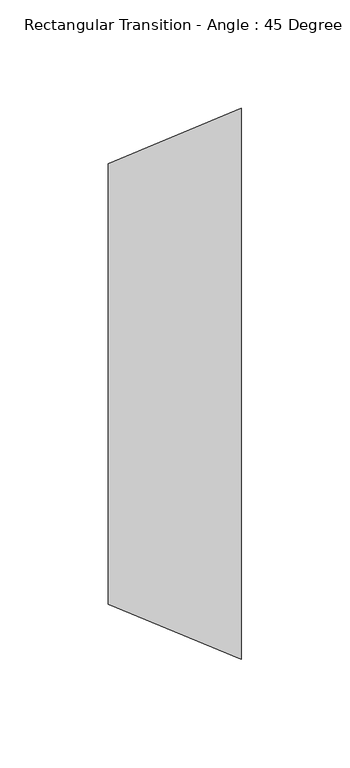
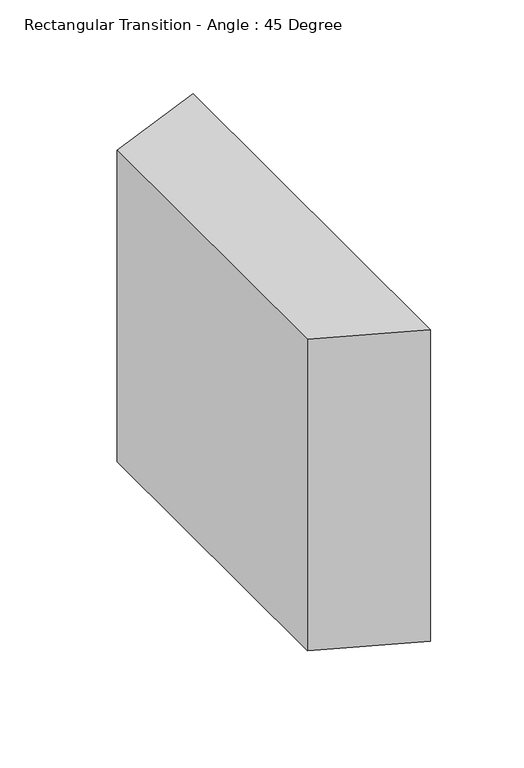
"""IFC4 building model written with IfcOpenShell, lengths in millimetres: duct fitting geometry, Rectangular Transition - Angle : 45 Degree."""

from ifc_helpers import new_model, si_unit, frame, origin, place, context, project, spatial, polyline, outline, extrude, source, transform, mapped, element, save


def rectangular_transition_angle_45_degree_fab70002(model_context):
    return source(origin(), model_context, "Body", "SweptSolid", [
        extrude(outline(polyline([(0.0, -101.6), (0.0, 101.6), (61.3210245, 127.0), (61.3210245, -127.0), (0.0, -101.6)])), frame((0.0, 0.0, -101.6), z_axis=(0.0, 0.0, 1.0), x_axis=(1.0, 0.0, 0.0)), (0.0, 0.0, 1.0), 203.2),
    ])


if __name__ == "__main__":
    model = new_model("IFC4")
    model_context = context("Model", 3, world=origin())
    ifc_project = project(units=[si_unit("LENGTHUNIT", "METRE", prefix="MILLI")], contexts=[model_context])
    site = spatial("IfcSite", under=ifc_project)
    building = spatial("IfcBuilding", under=site)
    placement = place(None, origin())
    rectangular_transition_angle_45_degree_shape = rectangular_transition_angle_45_degree_fab70002(model_context)
    element("IfcDuctFitting", 1, ObjectType="Rectangular Transition - Angle : 45 Degree", at=placement, inside=building, context=model_context, shape_type="MappedRepresentation", body=[
        mapped(rectangular_transition_angle_45_degree_shape, transform((0.0, 0.0, 0.0), x_axis=(1.0, 0.0, 0.0), y_axis=(0.0, 1.0, 0.0), z_axis=(0.0, 0.0, 1.0))),
    ])
    save(model, "model.ifc")
